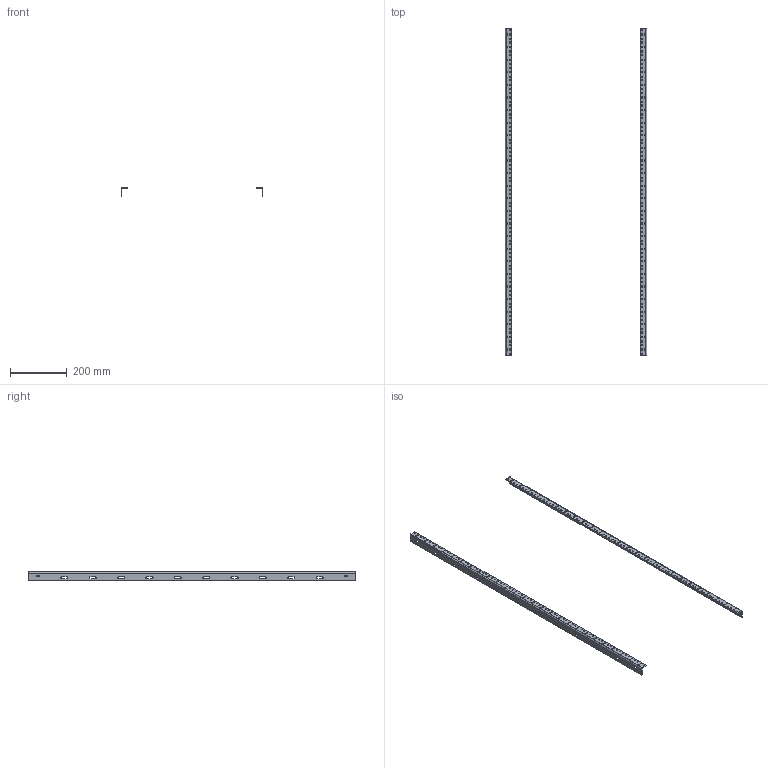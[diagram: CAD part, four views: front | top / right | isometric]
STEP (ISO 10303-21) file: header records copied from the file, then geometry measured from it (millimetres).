
FILE_DESCRIPTION (( 'STEP AP203' ), '1' );
FILE_NAME ('ewmr48t.STEP', '2009-03-06T17:43:15', ( '' ), ( '' ), 'SwSTEP 2.0', 'SolidWorks 2007', '' );
FILE_SCHEMA (( 'CONFIG_CONTROL_DESIGN' ));
Length unit declared in the file: millimetre
Products named in the file (2): 87934880_87934880; ewmr48t
Assembly tree (2 placements, depth 2):
  ewmr48t
    87934880_87934880  x2
Bounding box: 500.08 x 1155.7 x 30 mm (x, y, z)
Volume: 270507.7 mm3; surface area: 241278.6 mm2
Topology: 2 solids, 2 shells, 540 faces, 1592 edges, 1056 vertices
Faces by surface type: cylinder 460, plane 80
Entity records: 9948 total; most frequent: DIRECTION 1806, CARTESIAN_POINT 1599, ORIENTED_EDGE 1592, EDGE_CURVE 796, AXIS2_PLACEMENT_3D 735, VERTEX_POINT 528, EDGE_LOOP 502, CIRCLE 460
